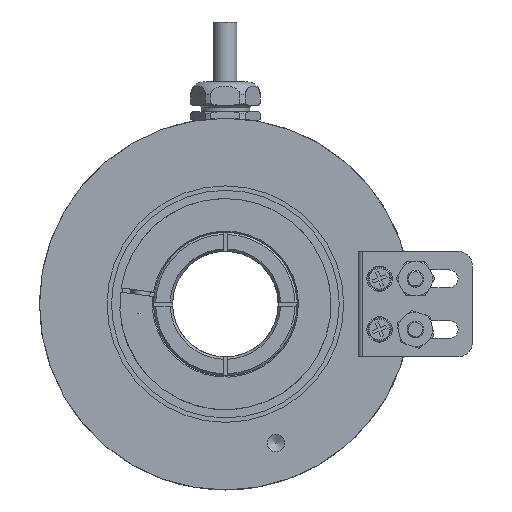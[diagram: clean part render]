
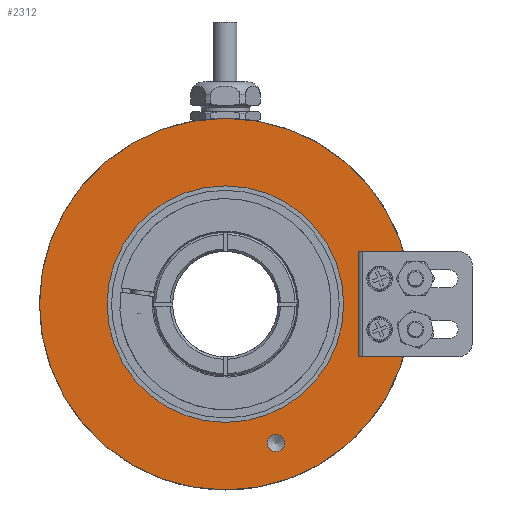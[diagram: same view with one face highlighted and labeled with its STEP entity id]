
A CAD part, left-side view. The second image highlights one B-rep face of the part: STEP entity #2312.
In plain terms, the highlighted planar face has unit normal (-1, 0, 0).
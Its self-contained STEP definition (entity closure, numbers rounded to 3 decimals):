
#2312 = ADVANCED_FACE( '', ( #4113, #4114, #4115, #4116, #4117 ), #4118, .T. );
#4113 = FACE_BOUND( '', #5806, .T. );
#4114 = FACE_BOUND( '', #5807, .T. );
#4115 = FACE_BOUND( '', #5808, .T. );
#4116 = FACE_OUTER_BOUND( '', #5809, .T. );
#4117 = FACE_BOUND( '', #5810, .T. );
#4118 = PLANE( '', #5811 );
#5806 = EDGE_LOOP( '', ( #8948 ) );
#5807 = EDGE_LOOP( '', ( #8949 ) );
#5808 = EDGE_LOOP( '', ( #8950 ) );
#5809 = EDGE_LOOP( '', ( #8951 ) );
#5810 = EDGE_LOOP( '', ( #8952 ) );
#5811 = AXIS2_PLACEMENT_3D( '', #8953, #8954, #8955 );
#8948 = ORIENTED_EDGE( '', *, *, #10565, .T. );
#8949 = ORIENTED_EDGE( '', *, *, #10698, .T. );
#8950 = ORIENTED_EDGE( '', *, *, #11023, .T. );
#8951 = ORIENTED_EDGE( '', *, *, #10987, .T. );
#8952 = ORIENTED_EDGE( '', *, *, #11024, .F. );
#8953 = CARTESIAN_POINT( '', ( 0., 0., 28. ) );
#8954 = DIRECTION( '', ( -1., 0., 0. ) );
#8955 = DIRECTION( '', ( 0., 0., 1. ) );
#10565 = EDGE_CURVE( '', #12361, #12361, #12362, .T. );
#10698 = EDGE_CURVE( '', #12542, #12542, #12543, .T. );
#10987 = EDGE_CURVE( '', #12878, #12878, #12879, .T. );
#11023 = EDGE_CURVE( '', #12916, #12916, #12917, .T. );
#11024 = EDGE_CURVE( '', #12918, #12918, #12919, .T. );
#12361 = VERTEX_POINT( '', #15023 );
#12362 = CIRCLE( '', #15024, 1.23 );
#12542 = VERTEX_POINT( '', #15307 );
#12543 = CIRCLE( '', #15308, 1.23 );
#12878 = VERTEX_POINT( '', #15813 );
#12879 = CIRCLE( '', #15814, 44. );
#12916 = VERTEX_POINT( '', #15865 );
#12917 = CIRCLE( '', #15866, 2.067 );
#12918 = VERTEX_POINT( '', #15867 );
#12919 = CIRCLE( '', #15868, 28. );
#15023 = CARTESIAN_POINT( '', ( 0., -6.846, 37.58 ) );
#15024 = AXIS2_PLACEMENT_3D( '', #17060, #17061, #17062 );
#15307 = CARTESIAN_POINT( '', ( 0., -18.122, 33.476 ) );
#15308 = AXIS2_PLACEMENT_3D( '', #17218, #17219, #17220 );
#15813 = CARTESIAN_POINT( '', ( 0., 0., 44. ) );
#15814 = AXIS2_PLACEMENT_3D( '', #17456, #17457, #17458 );
#15865 = CARTESIAN_POINT( '', ( 0., -35., 2.067 ) );
#15866 = AXIS2_PLACEMENT_3D( '', #17484, #17485, #17486 );
#15867 = CARTESIAN_POINT( '', ( 0., 0., 28. ) );
#15868 = AXIS2_PLACEMENT_3D( '', #17487, #17488, #17489 );
#17060 = CARTESIAN_POINT( '', ( 0., -6.846, 36.351 ) );
#17061 = DIRECTION( '', ( 1., 0., 0. ) );
#17062 = DIRECTION( '', ( 0., 0., 1. ) );
#17218 = CARTESIAN_POINT( '', ( 0., -18.122, 32.247 ) );
#17219 = DIRECTION( '', ( 1., 0., 0. ) );
#17220 = DIRECTION( '', ( 0., 0., 1. ) );
#17456 = CARTESIAN_POINT( '', ( 0., 0., 0. ) );
#17457 = DIRECTION( '', ( -1., 0., 0. ) );
#17458 = DIRECTION( '', ( 0., 0., 1. ) );
#17484 = CARTESIAN_POINT( '', ( 0., -35., 0. ) );
#17485 = DIRECTION( '', ( 1., 0., 0. ) );
#17486 = DIRECTION( '', ( 0., 0., 1. ) );
#17487 = CARTESIAN_POINT( '', ( 0., 0., 0. ) );
#17488 = DIRECTION( '', ( -1., 0., 0. ) );
#17489 = DIRECTION( '', ( 0., 0., 1. ) );
